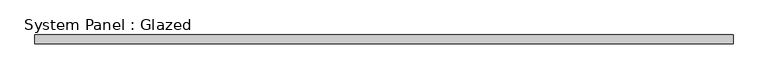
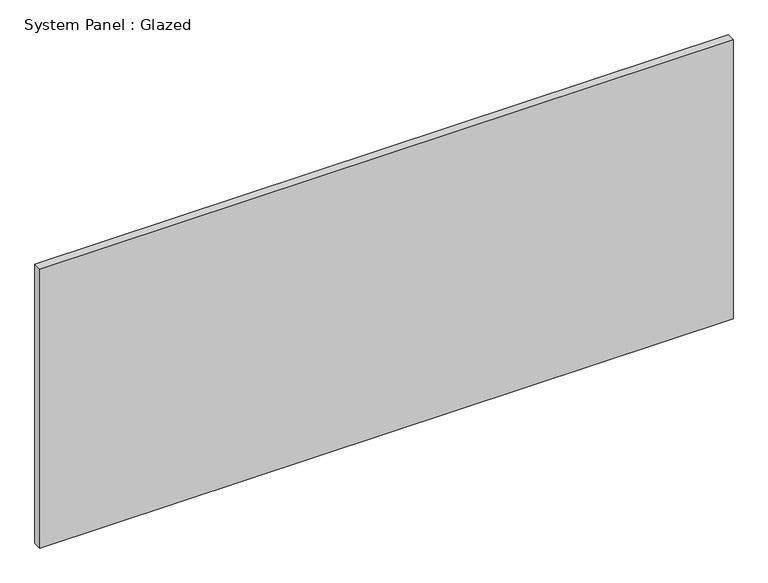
"""IFC4 building model written with IfcOpenShell, lengths in millimetres: plate geometry, System Panel : Glazed."""

from ifc_helpers import new_model, si_unit, origin, origin_with_axes, place, context, project, spatial, polyline, outline, extrude, source, transform, mapped, element, save


def system_panel_glazed_767332fe(model_context):
    return source(origin(), model_context, "Body", "SweptSolid", [
        extrude(outline(polyline([(1016.0, 19.05), (-1016.0, 19.05), (-1016.0, 44.45), (1016.0, 44.45), (1016.0, 19.05)])), origin_with_axes(), (0.0, 0.0, 1.0), 863.6),
    ])


if __name__ == "__main__":
    model = new_model("IFC4")
    model_context = context("Model", 3, world=origin())
    ifc_project = project(units=[si_unit("LENGTHUNIT", "METRE", prefix="MILLI")], contexts=[model_context])
    site = spatial("IfcSite", under=ifc_project)
    building = spatial("IfcBuilding", under=site)
    placement = place(None, origin())
    system_panel_glazed_shape = system_panel_glazed_767332fe(model_context)
    element("IfcPlate", 1, ObjectType="System Panel : Glazed", at=placement, inside=building, context=model_context, shape_type="MappedRepresentation", body=[
        mapped(system_panel_glazed_shape, transform((0.0, 0.0, 0.0), x_axis=(1.0, 0.0, 0.0), y_axis=(0.0, 1.0, 0.0), z_axis=(0.0, 0.0, 1.0))),
    ])
    save(model, "model.ifc")
